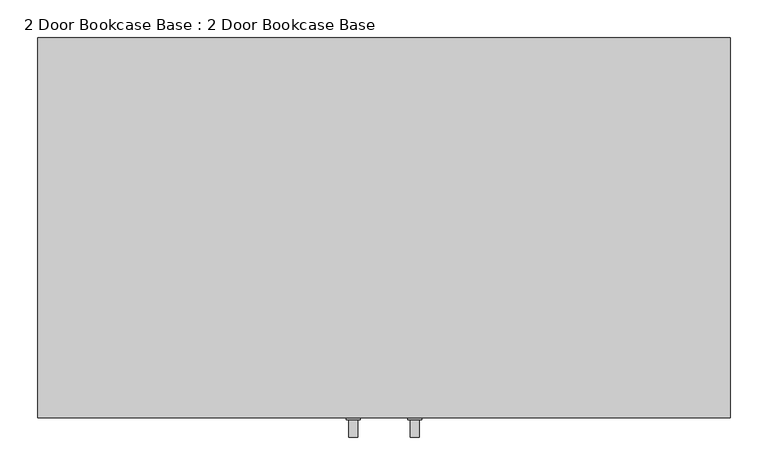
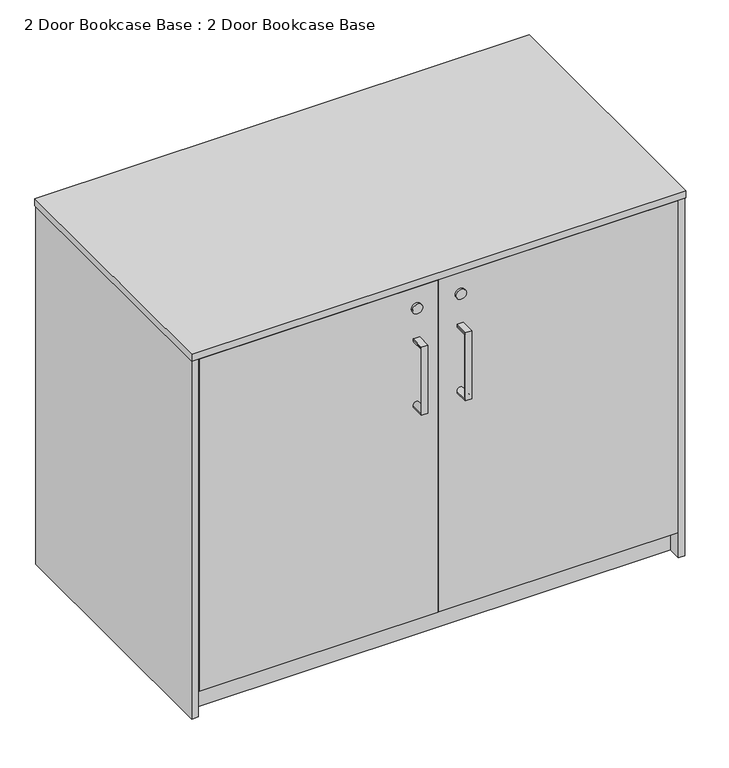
"""IFC4 building model written with IfcOpenShell, lengths in millimetres: furniture geometry, 2 Door Bookcase Base : 2 Door Bookcase Base."""

from ifc_helpers import new_model, si_unit, point, frame, frame_2d, origin, place, context, project, spatial, polyline, circle_curve, ellipse_curve, trimmed, segment, composite_curve, outline, extrude, source, transform, mapped, element, save
from ifc_brep_helpers import plane_surface, cylinder_surface, revolved_surface, advanced_brep


def furniture_2_door_bookcase_base_2_door_bookcase_base_32b6f320(model_context):
    return source(origin(), model_context, "Body", "SolidModel", [
        advanced_brep(
        [(431.0000121, -195.000005, 35.9938187), (428.1418006, -195.000005, 35.9938187), (433.8582236, -195.000005, 35.9938187), (441.0434443, -195.000005, 0.0), (420.9565799, -195.000005, 0.0), (431.0000121, -195.000005, 0.0), (440.2434443, -195.000005, 11.0000002), (421.7565799, -195.000005, 11.0000002), (421.7565799, -195.000005, 5.9919081), (440.2434443, -195.000005, 5.9919081), (434.8617061, -195.000005, 11.0000002), (427.1383182, -195.000005, 11.0000002), (434.8617061, -195.000005, 34.9903362), (427.1383182, -195.000005, 34.9903362), (441.0434443, -195.000005, 5.9919081), (420.9565799, -195.000005, 5.9919081)],
        [
            (0, 1),
            (1, 2, circle_curve(frame((431.0000121, -195.000005, 35.9938187), z_axis=(0.0, 0.0, 1.0), x_axis=(-1.0, 0.0, 0.0)), 2.8582115)),
            (2, 0),
            (2, 1, circle_curve(frame((431.0000121, -195.000005, 35.9938187), z_axis=(0.0, 0.0, 1.0), x_axis=(-1.0, 0.0, 0.0)), 2.8582115)),
            (3, 4, circle_curve(frame((431.0000121, -195.000005, 0.0), z_axis=(0.0, 0.0, -1.0), x_axis=(-1.0, 0.0, 0.0)), 10.0434322)),
            (4, 5),
            (5, 3),
            (4, 3, circle_curve(frame((431.0000121, -195.000005, 0.0), z_axis=(0.0, 0.0, -1.0), x_axis=(-1.0, 0.0, 0.0)), 10.0434322)),
            (6, 7, circle_curve(frame((431.0000121, -195.000005, 11.0000002), z_axis=(0.0, 0.0, -1.0), x_axis=(-1.0, 0.0, 0.0)), 9.2434322)),
            (7, 8),
            (8, 9, circle_curve(frame((431.0000121, -195.000005, 5.9919081), z_axis=(0.0, 0.0, 1.0), x_axis=(-1.0, 0.0, 0.0)), 9.2434322)),
            (9, 6),
            (7, 6, circle_curve(frame((431.0000121, -195.000005, 11.0000002), z_axis=(0.0, 0.0, -1.0), x_axis=(-1.0, 0.0, 0.0)), 9.2434322)),
            (9, 8, circle_curve(frame((431.0000121, -195.000005, 5.9919081), z_axis=(0.0, 0.0, 1.0), x_axis=(-1.0, 0.0, 0.0)), 9.2434322)),
            (10, 11, circle_curve(frame((431.0000121, -195.000005, 11.0000002), z_axis=(0.0, 0.0, -1.0), x_axis=(-1.0, 0.0, 0.0)), 3.8616939)),
            (11, 7),
            (6, 10),
            (11, 10, circle_curve(frame((431.0000121, -195.000005, 11.0000002), z_axis=(0.0, 0.0, -1.0), x_axis=(-1.0, 0.0, 0.0)), 3.8616939)),
            (12, 13, circle_curve(frame((431.0000121, -195.000005, 34.9903362), z_axis=(0.0, 0.0, -1.0), x_axis=(-1.0, 0.0, 0.0)), 3.8616939)),
            (13, 11),
            (10, 12),
            (13, 12, circle_curve(frame((431.0000121, -195.000005, 34.9903362), z_axis=(0.0, 0.0, -1.0), x_axis=(-1.0, 0.0, 0.0)), 3.8616939)),
            (1, 13),
            (12, 2),
            (14, 15, circle_curve(frame((431.0000121, -195.000005, 5.9919081), z_axis=(0.0, 0.0, -1.0), x_axis=(-1.0, 0.0, 0.0)), 10.0434322)),
            (15, 4, circle_curve(frame((420.9565799, -195.000005, 2.995954), z_axis=(0.0, -1.0, 0.0), x_axis=(-1.0, 0.0, 0.0)), 2.995954)),
            (3, 14, circle_curve(frame((441.0434443, -195.000005, 2.995954), z_axis=(0.0, -1.0, 0.0), x_axis=(1.0, 0.0, 0.0)), 2.995954)),
            (15, 14, circle_curve(frame((431.0000121, -195.000005, 5.9919081), z_axis=(0.0, 0.0, -1.0), x_axis=(-1.0, 0.0, 0.0)), 10.0434322)),
            (8, 15),
            (14, 9),
        ],
        [
            plane_surface(frame((431.0000121, -195.000005, 35.9938187), z_axis=(0.0, 0.0, 1.0), x_axis=(-1.0, 0.0, 0.0))),
            plane_surface(frame((431.0000121, -195.000005, 0.0), z_axis=(0.0, 0.0, -1.0), x_axis=(-1.0, 0.0, 0.0))),
            cylinder_surface(frame((431.0000121, -195.000005, -7.4934292), z_axis=(0.0, 0.0, 1.0), x_axis=(-1.0, 0.0, 0.0)), 9.2434322),
            plane_surface(frame((431.0000121, -195.000005, 11.0000002), z_axis=(0.0, 0.0, 1.0), x_axis=(-1.0, 0.0, 0.0))),
            cylinder_surface(frame((431.0000121, -195.000005, -7.4934292), z_axis=(0.0, 0.0, 1.0), x_axis=(-1.0, 0.0, 0.0)), 3.8616939),
            revolved_surface(polyline([(427.1383182, -195.000005, 34.9903362), (428.1418006, -195.000005, 35.9938187)]), (431.0000121, -195.000005, -7.4934292), (0.0, 0.0, 1.0)),
            revolved_surface(trimmed(ellipse_curve(frame((420.9565799, -195.000005, 2.995954), z_axis=(0.0, 1.0, 0.0), x_axis=(-1.0, 0.0, 0.0)), 2.995954, 2.995954), [point((420.9565799, -195.000005, 0.0))], [point((420.9565799, -195.000005, 5.9919081))], True, "CARTESIAN"), (431.0000121, -195.000005, -7.4934292), (0.0, 0.0, 1.0)),
            plane_surface(frame((431.0000121, -195.000005, 5.9919081), z_axis=(0.0, 0.0, 1.0), x_axis=(-1.0, 0.0, 0.0))),
        ],
        [
            (0, [[1, 2, 3]]),
            (0, [[-3, 4, -1]]),
            (1, [[5, 6, 7]]),
            (1, [[8, -7, -6]]),
            (2, [[9, 10, 11, 12]]),
            (2, [[13, -12, 14, -10]]),
            (3, [[15, 16, -9, 17]]),
            (3, [[18, -17, -13, -16]]),
            (4, [[19, 20, -15, 21]]),
            (4, [[22, -21, -18, -20]]),
            (5, [[-2, 23, -19, 24]]),
            (5, [[-4, -24, -22, -23]]),
            (6, [[25, 26, -5, 27]]),
            (6, [[28, -27, -8, -26]]),
            (7, [[-11, 29, -25, 30]]),
            (7, [[-14, -30, -28, -29]]),
        ],
    ),
        advanced_brep(
        [(-431.0000199, -195.000005, 35.9938187), (-433.8582314, -195.000005, 35.9938187), (-428.1418084, -195.000005, 35.9938187), (-441.0434521, -195.000005, 0.0), (-431.0000199, -195.000005, 0.0), (-420.9565877, -195.000005, 0.0), (-440.2434521, -195.000005, 11.0000002), (-440.2434521, -195.000005, 5.9919081), (-421.7565877, -195.000005, 5.9919081), (-421.7565877, -195.000005, 11.0000002), (-434.8617139, -195.000005, 11.0000002), (-427.138326, -195.000005, 11.0000002), (-434.8617139, -195.000005, 34.9903362), (-427.138326, -195.000005, 34.9903362), (-441.0434521, -195.000005, 5.9919081), (-420.9565877, -195.000005, 5.9919081)],
        [
            (0, 1),
            (1, 2, circle_curve(frame((-431.0000199, -195.000005, 35.9938187), z_axis=(0.0, 0.0, 1.0), x_axis=(1.0, 0.0, 0.0)), 2.8582115)),
            (2, 0),
            (2, 1, circle_curve(frame((-431.0000199, -195.000005, 35.9938187), z_axis=(0.0, 0.0, 1.0), x_axis=(1.0, 0.0, 0.0)), 2.8582115)),
            (3, 4),
            (4, 5),
            (5, 3, circle_curve(frame((-431.0000199, -195.000005, 0.0), z_axis=(0.0, 0.0, -1.0), x_axis=(1.0, 0.0, 0.0)), 10.0434322)),
            (3, 5, circle_curve(frame((-431.0000199, -195.000005, 0.0), z_axis=(0.0, 0.0, -1.0), x_axis=(1.0, 0.0, 0.0)), 10.0434322)),
            (6, 7),
            (7, 8, circle_curve(frame((-431.0000199, -195.000005, 5.9919081), z_axis=(0.0, 0.0, 1.0), x_axis=(1.0, 0.0, 0.0)), 9.2434322)),
            (8, 9),
            (9, 6, circle_curve(frame((-431.0000199, -195.000005, 11.0000002), z_axis=(0.0, 0.0, -1.0), x_axis=(1.0, 0.0, 0.0)), 9.2434322)),
            (8, 7, circle_curve(frame((-431.0000199, -195.000005, 5.9919081), z_axis=(0.0, 0.0, 1.0), x_axis=(1.0, 0.0, 0.0)), 9.2434322)),
            (6, 9, circle_curve(frame((-431.0000199, -195.000005, 11.0000002), z_axis=(0.0, 0.0, -1.0), x_axis=(1.0, 0.0, 0.0)), 9.2434322)),
            (10, 6),
            (9, 11),
            (11, 10, circle_curve(frame((-431.0000199, -195.000005, 11.0000002), z_axis=(0.0, 0.0, -1.0), x_axis=(1.0, 0.0, 0.0)), 3.8616939)),
            (10, 11, circle_curve(frame((-431.0000199, -195.000005, 11.0000002), z_axis=(0.0, 0.0, -1.0), x_axis=(1.0, 0.0, 0.0)), 3.8616939)),
            (12, 10),
            (11, 13),
            (13, 12, circle_curve(frame((-431.0000199, -195.000005, 34.9903362), z_axis=(0.0, 0.0, -1.0), x_axis=(1.0, 0.0, 0.0)), 3.8616939)),
            (12, 13, circle_curve(frame((-431.0000199, -195.000005, 34.9903362), z_axis=(0.0, 0.0, -1.0), x_axis=(1.0, 0.0, 0.0)), 3.8616939)),
            (1, 12),
            (13, 2),
            (14, 3, circle_curve(frame((-441.0434521, -195.000005, 2.995954), z_axis=(0.0, -1.0, 0.0), x_axis=(-1.0, 0.0, 0.0)), 2.995954)),
            (5, 15, circle_curve(frame((-420.9565877, -195.000005, 2.995954), z_axis=(0.0, -1.0, 0.0), x_axis=(1.0, 0.0, 0.0)), 2.995954)),
            (15, 14, circle_curve(frame((-431.0000199, -195.000005, 5.9919081), z_axis=(0.0, 0.0, -1.0), x_axis=(1.0, 0.0, 0.0)), 10.0434322)),
            (14, 15, circle_curve(frame((-431.0000199, -195.000005, 5.9919081), z_axis=(0.0, 0.0, -1.0), x_axis=(1.0, 0.0, 0.0)), 10.0434322)),
            (7, 14),
            (15, 8),
        ],
        [
            plane_surface(frame((-431.0000199, -195.000005, 35.9938187), z_axis=(0.0, 0.0, 1.0), x_axis=(1.0, 0.0, 0.0))),
            plane_surface(frame((-431.0000199, -195.000005, 0.0), z_axis=(0.0, 0.0, -1.0), x_axis=(1.0, 0.0, 0.0))),
            cylinder_surface(frame((-431.0000199, -195.000005, -7.4934292), z_axis=(0.0, 0.0, 1.0), x_axis=(1.0, 0.0, 0.0)), 9.2434322),
            plane_surface(frame((-431.0000199, -195.000005, 11.0000002), z_axis=(0.0, 0.0, 1.0), x_axis=(1.0, 0.0, 0.0))),
            cylinder_surface(frame((-431.0000199, -195.000005, -7.4934292), z_axis=(0.0, 0.0, 1.0), x_axis=(1.0, 0.0, 0.0)), 3.8616939),
            revolved_surface(polyline([(-427.138326, -195.000005, 34.9903362), (-428.1418084, -195.000005, 35.9938187)]), (-431.0000199, -195.000005, -7.4934292), (0.0, 0.0, 1.0)),
            revolved_surface(trimmed(ellipse_curve(frame((-420.9565877, -195.000005, 2.995954), z_axis=(0.0, -1.0, 0.0), x_axis=(1.0, 0.0, 0.0)), 2.995954, 2.995954), [point((-420.9565877, -195.000005, 0.0))], [point((-420.9565877, -195.000005, 5.9919081))], True, "CARTESIAN"), (-431.0000199, -195.000005, -7.4934292), (0.0, 0.0, 1.0)),
            plane_surface(frame((-431.0000199, -195.000005, 5.9919081), z_axis=(0.0, 0.0, 1.0), x_axis=(1.0, 0.0, 0.0))),
        ],
        [
            (0, [[1, 2, 3]]),
            (0, [[-3, 4, -1]]),
            (1, [[5, 6, 7]]),
            (1, [[-6, -5, 8]]),
            (2, [[9, 10, 11, 12]]),
            (2, [[-11, 13, -9, 14]]),
            (3, [[15, -12, 16, 17]]),
            (3, [[-16, -14, -15, 18]]),
            (4, [[19, -17, 20, 21]]),
            (4, [[-20, -18, -19, 22]]),
            (5, [[23, -21, 24, -2]]),
            (5, [[-24, -22, -23, -4]]),
            (6, [[25, -7, 26, 27]]),
            (6, [[-26, -8, -25, 28]]),
            (7, [[29, -27, 30, -10]]),
            (7, [[-30, -28, -29, -13]]),
        ],
    ),
        advanced_brep(
        [(419.0000176, 216.000025, 35.9938187), (421.858229, 216.000025, 35.9938187), (416.1418061, 216.000025, 35.9938187), (429.0434498, 216.000025, 0.0), (419.0000176, 216.000025, 0.0), (408.9565854, 216.000025, 0.0), (428.2434498, 216.000025, 11.0000002), (428.2434498, 216.000025, 5.9919081), (409.7565854, 216.000025, 5.9919081), (409.7565854, 216.000025, 11.0000002), (422.8617115, 216.000025, 11.0000002), (415.1383236, 216.000025, 11.0000002), (422.8617115, 216.000025, 34.9903362), (415.1383236, 216.000025, 34.9903362), (429.0434498, 216.000025, 5.9919081), (408.9565854, 216.000025, 5.9919081)],
        [
            (0, 1),
            (1, 2, circle_curve(frame((419.0000176, 216.000025, 35.9938187), z_axis=(0.0, 0.0, 1.0), x_axis=(-1.0, 0.0, 0.0)), 2.8582115)),
            (2, 0),
            (2, 1, circle_curve(frame((419.0000176, 216.000025, 35.9938187), z_axis=(0.0, 0.0, 1.0), x_axis=(-1.0, 0.0, 0.0)), 2.8582115)),
            (3, 4),
            (4, 5),
            (5, 3, circle_curve(frame((419.0000176, 216.000025, 0.0), z_axis=(0.0, 0.0, -1.0), x_axis=(-1.0, 0.0, 0.0)), 10.0434322)),
            (3, 5, circle_curve(frame((419.0000176, 216.000025, 0.0), z_axis=(0.0, 0.0, -1.0), x_axis=(-1.0, 0.0, 0.0)), 10.0434322)),
            (6, 7),
            (7, 8, circle_curve(frame((419.0000176, 216.000025, 5.9919081), z_axis=(0.0, 0.0, 1.0), x_axis=(-1.0, 0.0, 0.0)), 9.2434322)),
            (8, 9),
            (9, 6, circle_curve(frame((419.0000176, 216.000025, 11.0000002), z_axis=(0.0, 0.0, -1.0), x_axis=(-1.0, 0.0, 0.0)), 9.2434322)),
            (8, 7, circle_curve(frame((419.0000176, 216.000025, 5.9919081), z_axis=(0.0, 0.0, 1.0), x_axis=(-1.0, 0.0, 0.0)), 9.2434322)),
            (6, 9, circle_curve(frame((419.0000176, 216.000025, 11.0000002), z_axis=(0.0, 0.0, -1.0), x_axis=(-1.0, 0.0, 0.0)), 9.2434322)),
            (10, 6),
            (9, 11),
            (11, 10, circle_curve(frame((419.0000176, 216.000025, 11.0000002), z_axis=(0.0, 0.0, -1.0), x_axis=(-1.0, 0.0, 0.0)), 3.8616939)),
            (10, 11, circle_curve(frame((419.0000176, 216.000025, 11.0000002), z_axis=(0.0, 0.0, -1.0), x_axis=(-1.0, 0.0, 0.0)), 3.8616939)),
            (12, 10),
            (11, 13),
            (13, 12, circle_curve(frame((419.0000176, 216.000025, 34.9903362), z_axis=(0.0, 0.0, -1.0), x_axis=(-1.0, 0.0, 0.0)), 3.8616939)),
            (12, 13, circle_curve(frame((419.0000176, 216.000025, 34.9903362), z_axis=(0.0, 0.0, -1.0), x_axis=(-1.0, 0.0, 0.0)), 3.8616939)),
            (1, 12),
            (13, 2),
            (14, 3, circle_curve(frame((429.0434498, 216.000025, 2.995954), z_axis=(0.0, 1.0, 0.0), x_axis=(1.0, 0.0, 0.0)), 2.995954)),
            (5, 15, circle_curve(frame((408.9565854, 216.000025, 2.995954), z_axis=(0.0, 1.0, 0.0), x_axis=(-1.0, 0.0, 0.0)), 2.995954)),
            (15, 14, circle_curve(frame((419.0000176, 216.000025, 5.9919081), z_axis=(0.0, 0.0, -1.0), x_axis=(-1.0, 0.0, 0.0)), 10.0434322)),
            (14, 15, circle_curve(frame((419.0000176, 216.000025, 5.9919081), z_axis=(0.0, 0.0, -1.0), x_axis=(-1.0, 0.0, 0.0)), 10.0434322)),
            (7, 14),
            (15, 8),
        ],
        [
            plane_surface(frame((419.0000176, 216.000025, 35.9938187), z_axis=(0.0, 0.0, 1.0), x_axis=(-1.0, 0.0, 0.0))),
            plane_surface(frame((419.0000176, 216.000025, 0.0), z_axis=(0.0, 0.0, -1.0), x_axis=(-1.0, 0.0, 0.0))),
            cylinder_surface(frame((419.0000176, 216.000025, -7.4934292), z_axis=(0.0, 0.0, 1.0), x_axis=(-1.0, 0.0, 0.0)), 9.2434322),
            plane_surface(frame((419.0000176, 216.000025, 11.0000002), z_axis=(0.0, 0.0, 1.0), x_axis=(-1.0, 0.0, 0.0))),
            cylinder_surface(frame((419.0000176, 216.000025, -7.4934292), z_axis=(0.0, 0.0, 1.0), x_axis=(-1.0, 0.0, 0.0)), 3.8616939),
            revolved_surface(polyline([(415.1383236, 216.000025, 34.9903362), (416.1418061, 216.000025, 35.9938187)]), (419.0000176, 216.000025, -7.4934292), (0.0, 0.0, 1.0)),
            revolved_surface(trimmed(ellipse_curve(frame((408.9565854, 216.000025, 2.995954), z_axis=(0.0, 1.0, 0.0), x_axis=(-1.0, 0.0, 0.0)), 2.995954, 2.995954), [point((408.9565854, 216.000025, 0.0))], [point((408.9565854, 216.000025, 5.9919081))], True, "CARTESIAN"), (419.0000176, 216.000025, -7.4934292), (0.0, 0.0, 1.0)),
            plane_surface(frame((419.0000176, 216.000025, 5.9919081), z_axis=(0.0, 0.0, 1.0), x_axis=(-1.0, 0.0, 0.0))),
        ],
        [
            (0, [[1, 2, 3]]),
            (0, [[-3, 4, -1]]),
            (1, [[5, 6, 7]]),
            (1, [[-6, -5, 8]]),
            (2, [[9, 10, 11, 12]]),
            (2, [[-11, 13, -9, 14]]),
            (3, [[15, -12, 16, 17]]),
            (3, [[-16, -14, -15, 18]]),
            (4, [[19, -17, 20, 21]]),
            (4, [[-20, -18, -19, 22]]),
            (5, [[23, -21, 24, -2]]),
            (5, [[-24, -22, -23, -4]]),
            (6, [[25, -7, 26, 27]]),
            (6, [[-26, -8, -25, 28]]),
            (7, [[29, -27, 30, -10]]),
            (7, [[-30, -28, -29, -13]]),
        ],
    ),
        advanced_brep(
        [(-419.0000178, 216.000025, 35.9938187), (-416.1418063, 216.000025, 35.9938187), (-421.8582293, 216.000025, 35.9938187), (-429.04345, 216.000025, 0.0), (-408.9565856, 216.000025, 0.0), (-419.0000178, 216.000025, 0.0), (-428.24345, 216.000025, 11.0000002), (-409.7565856, 216.000025, 11.0000002), (-409.7565856, 216.000025, 5.9919081), (-428.24345, 216.000025, 5.9919081), (-422.8617117, 216.000025, 11.0000002), (-415.1383238, 216.000025, 11.0000002), (-422.8617117, 216.000025, 34.9903362), (-415.1383238, 216.000025, 34.9903362), (-429.04345, 216.000025, 5.9919081), (-408.9565856, 216.000025, 5.9919081)],
        [
            (0, 1),
            (1, 2, circle_curve(frame((-419.0000178, 216.000025, 35.9938187), z_axis=(0.0, 0.0, 1.0), x_axis=(1.0, 0.0, 0.0)), 2.8582115)),
            (2, 0),
            (2, 1, circle_curve(frame((-419.0000178, 216.000025, 35.9938187), z_axis=(0.0, 0.0, 1.0), x_axis=(1.0, 0.0, 0.0)), 2.8582115)),
            (3, 4, circle_curve(frame((-419.0000178, 216.000025, 0.0), z_axis=(0.0, 0.0, -1.0), x_axis=(1.0, 0.0, 0.0)), 10.0434322)),
            (4, 5),
            (5, 3),
            (4, 3, circle_curve(frame((-419.0000178, 216.000025, 0.0), z_axis=(0.0, 0.0, -1.0), x_axis=(1.0, 0.0, 0.0)), 10.0434322)),
            (6, 7, circle_curve(frame((-419.0000178, 216.000025, 11.0000002), z_axis=(0.0, 0.0, -1.0), x_axis=(1.0, 0.0, 0.0)), 9.2434322)),
            (7, 8),
            (8, 9, circle_curve(frame((-419.0000178, 216.000025, 5.9919081), z_axis=(0.0, 0.0, 1.0), x_axis=(1.0, 0.0, 0.0)), 9.2434322)),
            (9, 6),
            (7, 6, circle_curve(frame((-419.0000178, 216.000025, 11.0000002), z_axis=(0.0, 0.0, -1.0), x_axis=(1.0, 0.0, 0.0)), 9.2434322)),
            (9, 8, circle_curve(frame((-419.0000178, 216.000025, 5.9919081), z_axis=(0.0, 0.0, 1.0), x_axis=(1.0, 0.0, 0.0)), 9.2434322)),
            (10, 11, circle_curve(frame((-419.0000178, 216.000025, 11.0000002), z_axis=(0.0, 0.0, -1.0), x_axis=(1.0, 0.0, 0.0)), 3.8616939)),
            (11, 7),
            (6, 10),
            (11, 10, circle_curve(frame((-419.0000178, 216.000025, 11.0000002), z_axis=(0.0, 0.0, -1.0), x_axis=(1.0, 0.0, 0.0)), 3.8616939)),
            (12, 13, circle_curve(frame((-419.0000178, 216.000025, 34.9903362), z_axis=(0.0, 0.0, -1.0), x_axis=(1.0, 0.0, 0.0)), 3.8616939)),
            (13, 11),
            (10, 12),
            (13, 12, circle_curve(frame((-419.0000178, 216.000025, 34.9903362), z_axis=(0.0, 0.0, -1.0), x_axis=(1.0, 0.0, 0.0)), 3.8616939)),
            (1, 13),
            (12, 2),
            (14, 15, circle_curve(frame((-419.0000178, 216.000025, 5.9919081), z_axis=(0.0, 0.0, -1.0), x_axis=(1.0, 0.0, 0.0)), 10.0434322)),
            (15, 4, circle_curve(frame((-408.9565856, 216.000025, 2.995954), z_axis=(0.0, 1.0, 0.0), x_axis=(1.0, 0.0, 0.0)), 2.995954)),
            (3, 14, circle_curve(frame((-429.04345, 216.000025, 2.995954), z_axis=(0.0, 1.0, 0.0), x_axis=(-1.0, 0.0, 0.0)), 2.995954)),
            (15, 14, circle_curve(frame((-419.0000178, 216.000025, 5.9919081), z_axis=(0.0, 0.0, -1.0), x_axis=(1.0, 0.0, 0.0)), 10.0434322)),
            (8, 15),
            (14, 9),
        ],
        [
            plane_surface(frame((-419.0000178, 216.000025, 35.9938187), z_axis=(0.0, 0.0, 1.0), x_axis=(1.0, 0.0, 0.0))),
            plane_surface(frame((-419.0000178, 216.000025, 0.0), z_axis=(0.0, 0.0, -1.0), x_axis=(1.0, 0.0, 0.0))),
            cylinder_surface(frame((-419.0000178, 216.000025, -7.4934292), z_axis=(0.0, 0.0, 1.0), x_axis=(1.0, 0.0, 0.0)), 9.2434322),
            plane_surface(frame((-419.0000178, 216.000025, 11.0000002), z_axis=(0.0, 0.0, 1.0), x_axis=(1.0, 0.0, 0.0))),
            cylinder_surface(frame((-419.0000178, 216.000025, -7.4934292), z_axis=(0.0, 0.0, 1.0), x_axis=(1.0, 0.0, 0.0)), 3.8616939),
            revolved_surface(polyline([(-415.1383238, 216.000025, 34.9903362), (-416.1418063, 216.000025, 35.9938187)]), (-419.0000178, 216.000025, -7.4934292), (0.0, 0.0, 1.0)),
            revolved_surface(trimmed(ellipse_curve(frame((-408.9565856, 216.000025, 2.995954), z_axis=(0.0, -1.0, 0.0), x_axis=(1.0, 0.0, 0.0)), 2.995954, 2.995954), [point((-408.9565856, 216.000025, 0.0))], [point((-408.9565856, 216.000025, 5.9919081))], True, "CARTESIAN"), (-419.0000178, 216.000025, -7.4934292), (0.0, 0.0, 1.0)),
            plane_surface(frame((-419.0000178, 216.000025, 5.9919081), z_axis=(0.0, 0.0, 1.0), x_axis=(1.0, 0.0, 0.0))),
        ],
        [
            (0, [[1, 2, 3]]),
            (0, [[-3, 4, -1]]),
            (1, [[5, 6, 7]]),
            (1, [[8, -7, -6]]),
            (2, [[9, 10, 11, 12]]),
            (2, [[13, -12, 14, -10]]),
            (3, [[15, 16, -9, 17]]),
            (3, [[18, -17, -13, -16]]),
            (4, [[19, 20, -15, 21]]),
            (4, [[22, -21, -18, -20]]),
            (5, [[-2, 23, -19, 24]]),
            (5, [[-4, -24, -22, -23]]),
            (6, [[25, 26, -5, 27]]),
            (6, [[28, -27, -8, -26]]),
            (7, [[-11, 29, -25, 30]]),
            (7, [[-14, -30, -28, -29]]),
        ],
    ),
        advanced_brep(
        [(46.7499989, -251.0000046, 611.5799341), (34.7500046, -251.0000046, 611.5799341), (34.7500046, -251.0000046, 614.5000149), (46.7499989, -251.0000046, 614.5000149), (46.7499989, -251.0000046, 483.4200627), (46.7499989, -251.0000046, 480.4999819), (34.7500046, -251.0000046, 480.4999819), (34.7500046, -251.0000046, 483.4200627), (46.7499989, -277.8799245, 611.5799341), (34.7500046, -277.8799245, 611.5799341), (34.7500046, -277.8799245, 483.4200627), (46.7499989, -277.8799245, 483.4200627), (34.7500046, -277.8799245, 480.4999819), (46.7499989, -277.8799245, 480.4999819), (46.7499989, -277.8799245, 614.5000149), (34.7500046, -277.8799245, 614.5000149)],
        [
            (0, 1, circle_curve(frame((40.7500018, -251.0000046, 611.5799341), z_axis=(0.0, 1.0, 0.0), x_axis=(-1.0, 0.0, 0.0)), 5.9999971)),
            (1, 2),
            (2, 3),
            (3, 0),
            (4, 5),
            (5, 6),
            (6, 7),
            (7, 4, circle_curve(frame((40.7500018, -251.0000046, 483.4200627), z_axis=(0.0, 1.0, 0.0), x_axis=(-1.0, 0.0, 0.0)), 5.9999971)),
            (0, 8),
            (8, 9, ellipse_curve(frame((40.7500018, -277.8799245, 611.5799341), z_axis=(0.0, 0.7071067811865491, 0.7071067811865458), x_axis=(0.0, 0.707106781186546, -0.7071067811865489)), 8.4852773, 5.9999971)),
            (9, 1),
            (7, 10),
            (10, 11, ellipse_curve(frame((40.7500018, -277.8799245, 483.4200627), z_axis=(0.0, 0.7071067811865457, -0.7071067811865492), x_axis=(0.0, -0.7071067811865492, -0.7071067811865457)), 8.4852773, 5.9999971)),
            (11, 4),
            (9, 10),
            (10, 12),
            (12, 13),
            (13, 11),
            (11, 8),
            (8, 14),
            (14, 15),
            (15, 9),
            (15, 2),
            (14, 3),
            (13, 5),
            (12, 6),
        ],
        [
            plane_surface(frame((0.0, -251.0000046, 614.5000149), z_axis=(0.0, 1.0, 0.0), x_axis=(1.0, 0.0, 0.0))),
            cylinder_surface(frame((40.7500018, -251.0000046, 611.5799341), z_axis=(0.0, 1.0, 0.0), x_axis=(-1.0, 0.0, 0.0)), 5.9999971),
            cylinder_surface(frame((40.7500018, -280.8000054, 483.4200627), z_axis=(0.0, -1.0, 0.0), x_axis=(-1.0, 0.0, 0.0)), 5.9999971),
            plane_surface(frame((34.7500046, -277.8799245, 611.5799341), z_axis=(0.0, -1.0, 0.0), x_axis=(0.0, 0.0, -1.0))),
            cylinder_surface(frame((40.7500018, -277.8799245, 614.5000149), z_axis=(0.0, 0.0, 1.0), x_axis=(-1.0, 0.0, 0.0)), 5.9999971),
            plane_surface(frame((34.7500046, -278.0000054, 614.5000149), z_axis=(-1.0, 0.0, 0.0), x_axis=(0.0, 1.0, 0.0))),
            plane_surface(frame((46.7499989, -278.0000054, 614.5000149), z_axis=(0.0, 0.0, 1.0), x_axis=(0.0, 1.0, 0.0))),
            plane_surface(frame((46.7499989, -278.0000054, 611.5799341), z_axis=(1.0, 0.0, 0.0), x_axis=(0.0, 1.0, 0.0))),
            plane_surface(frame((46.7499989, -278.0000054, 480.4999819), z_axis=(1.0, 0.0, 0.0), x_axis=(0.0, 1.0, 0.0))),
            plane_surface(frame((34.7500046, -278.0000054, 480.4999819), z_axis=(0.0, 0.0, -1.0), x_axis=(0.0, 1.0, 0.0))),
            plane_surface(frame((34.7500046, -278.0000054, 483.4200627), z_axis=(-1.0, 0.0, 0.0), x_axis=(0.0, 1.0, 0.0))),
        ],
        [
            (0, [[1, 2, 3, 4]]),
            (0, [[5, 6, 7, 8]]),
            (1, [[-1, 9, 10, 11]]),
            (2, [[-8, 12, 13, 14]]),
            (3, [[15, 16, 17, 18, 19, 20, 21, 22]]),
            (4, [[-10, -19, -13, -15]]),
            (5, [[-22, 23, -2, -11]]),
            (6, [[-21, 24, -3, -23]]),
            (7, [[-20, -9, -4, -24]]),
            (8, [[-18, 25, -5, -14]]),
            (9, [[-17, 26, -6, -25]]),
            (10, [[-16, -12, -7, -26]]),
        ],
    ),
        advanced_brep(
        [(-46.7499989, -251.0000046, 483.4200627), (-34.7500046, -251.0000046, 483.4200627), (-34.7500046, -251.0000046, 480.4999819), (-46.7499989, -251.0000046, 480.4999819), (-46.7499989, -251.0000046, 611.5799341), (-46.7499989, -251.0000046, 614.5000149), (-34.7500046, -251.0000046, 614.5000149), (-34.7500046, -251.0000046, 611.5799341), (-46.7499989, -277.8799245, 483.4200627), (-34.7500046, -277.8799245, 483.4200627), (-34.7500046, -277.8799245, 611.5799341), (-46.7499989, -277.8799245, 611.5799341), (-34.7500046, -277.8799245, 614.5000149), (-46.7499989, -277.8799245, 614.5000149), (-46.7499989, -277.8799245, 480.4999819), (-34.7500046, -277.8799245, 480.4999819)],
        [
            (0, 1, circle_curve(frame((-40.7500018, -251.0000046, 483.4200627), z_axis=(0.0, 1.0, 0.0), x_axis=(1.0, 0.0, 0.0)), 5.9999971)),
            (1, 2),
            (2, 3),
            (3, 0),
            (4, 5),
            (5, 6),
            (6, 7),
            (7, 4, circle_curve(frame((-40.7500018, -251.0000046, 611.5799341), z_axis=(0.0, 1.0, 0.0), x_axis=(1.0, 0.0, 0.0)), 5.9999971)),
            (0, 8),
            (8, 9, ellipse_curve(frame((-40.7500018, -277.8799245, 483.4200627), z_axis=(0.0, 0.7071067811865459, -0.7071067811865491), x_axis=(0.0, 0.707106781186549, 0.7071067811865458)), 8.4852773, 5.9999971)),
            (9, 1),
            (7, 10),
            (10, 11, ellipse_curve(frame((-40.7500018, -277.8799245, 611.5799341), z_axis=(0.0, 0.7071067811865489, 0.707106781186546), x_axis=(0.0, -0.7071067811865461, 0.7071067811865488)), 8.4852773, 5.9999971)),
            (11, 4),
            (9, 10),
            (10, 12),
            (12, 13),
            (13, 11),
            (11, 8),
            (8, 14),
            (14, 15),
            (15, 9),
            (6, 12),
            (5, 13),
            (3, 14),
            (2, 15),
        ],
        [
            plane_surface(frame((0.0, -251.0000046, 480.4999819), z_axis=(0.0, 1.0, 0.0), x_axis=(1.0, 0.0, 0.0))),
            cylinder_surface(frame((-40.7500018, -251.0000046, 483.4200627), z_axis=(0.0, 1.0, 0.0), x_axis=(1.0, 0.0, 0.0)), 5.9999971),
            cylinder_surface(frame((-40.7500018, -280.8000054, 611.5799341), z_axis=(0.0, -1.0, 0.0), x_axis=(1.0, 0.0, 0.0)), 5.9999971),
            plane_surface(frame((-34.7500046, -277.8799245, 483.4200627), z_axis=(0.0, -1.0, 0.0), x_axis=(0.0, 0.0, 1.0))),
            cylinder_surface(frame((-40.7500018, -277.8799245, 480.4999819), z_axis=(0.0, 0.0, -1.0), x_axis=(1.0, 0.0, 0.0)), 5.9999971),
            plane_surface(frame((-34.7500046, -278.0000054, 611.5799341), z_axis=(1.0, 0.0, 0.0), x_axis=(0.0, 1.0, 0.0))),
            plane_surface(frame((-34.7500046, -278.0000054, 614.5000149), z_axis=(0.0, 0.0, 1.0), x_axis=(0.0, 1.0, 0.0))),
            plane_surface(frame((-46.7499989, -278.0000054, 614.5000149), z_axis=(-1.0, 0.0, 0.0), x_axis=(0.0, 1.0, 0.0))),
            plane_surface(frame((-46.7499989, -278.0000054, 483.4200627), z_axis=(-1.0, 0.0, 0.0), x_axis=(0.0, 1.0, 0.0))),
            plane_surface(frame((-46.7499989, -278.0000054, 480.4999819), z_axis=(0.0, 0.0, -1.0), x_axis=(0.0, 1.0, 0.0))),
            plane_surface(frame((-34.7500046, -278.0000054, 480.4999819), z_axis=(1.0, 0.0, 0.0), x_axis=(0.0, 1.0, 0.0))),
        ],
        [
            (0, [[1, 2, 3, 4]]),
            (0, [[5, 6, 7, 8]]),
            (1, [[-1, 9, 10, 11]]),
            (2, [[-8, 12, 13, 14]]),
            (3, [[15, 16, 17, 18, 19, 20, 21, 22]]),
            (4, [[-10, -19, -13, -15]]),
            (5, [[-16, -12, -7, 23]]),
            (6, [[-17, -23, -6, 24]]),
            (7, [[-18, -24, -5, -14]]),
            (8, [[-20, -9, -4, 25]]),
            (9, [[-21, -25, -3, 26]]),
            (10, [[-22, -26, -2, -11]]),
        ],
    ),
        extrude(outline(composite_curve([segment(trimmed(circle_curve(frame_2d((674.0333746, -40.742523)), 9.5), [point((674.0333746, -50.242523))], [point((674.0333746, -31.242523))], False, "CARTESIAN"), True, "CONTINUOUS"), segment(trimmed(circle_curve(frame_2d((674.0333746, -40.742523)), 9.5), [point((674.0333746, -31.242523))], [point((674.0333746, -50.242523))], False, "CARTESIAN"), True, "CONTINUOUS")], self_intersect=False)), frame((0.0, -255.0000046, 0.0), z_axis=(0.0, 1.0, 0.0), x_axis=(0.0, 0.0, 1.0)), (0.0, 0.0, 1.0), 22.0000005),
        extrude(outline(composite_curve([segment(trimmed(circle_curve(frame_2d((674.0333746, 40.742523)), 9.5), [point((674.0333746, 31.242523))], [point((674.0333746, 50.242523))], False, "CARTESIAN"), True, "CONTINUOUS"), segment(trimmed(circle_curve(frame_2d((674.0333746, 40.742523)), 9.5), [point((674.0333746, 50.242523))], [point((674.0333746, 31.242523))], False, "CARTESIAN"), True, "CONTINUOUS")], self_intersect=False)), frame((0.0, -255.0000046, 0.0), z_axis=(0.0, 1.0, 0.0), x_axis=(0.0, 0.0, 1.0)), (0.0, 0.0, 1.0), 22.0000005),
        extrude(outline(composite_curve([segment(polyline([(684.5256867, -54.1182992), (663.5410625, -54.1182992)]), True, "CONTINUOUS"), segment(trimmed(circle_curve(frame_2d((674.0333746, -40.742523)), 17.0), [point((663.5410625, -54.1182992))], [point((665.9999964, -25.7603725))], False, "CARTESIAN"), True, "CONTINUOUS"), segment(polyline([(665.9999964, -25.7603725), (665.9999964, -14.1183061), (681.9999645, -14.1183061), (681.9999645, -25.724752)]), True, "CONTINUOUS"), segment(trimmed(circle_curve(frame_2d((674.0333746, -40.742523)), 17.0), [point((681.9999645, -25.724752))], [point((684.5256867, -54.1182992))], False, "CARTESIAN"), True, "CONTINUOUS")], self_intersect=False), holes=[composite_curve([segment(trimmed(circle_curve(frame_2d((674.0333746, -40.742523)), 9.5), [point((674.0333746, -50.242523))], [point((674.0333746, -31.242523))], True, "CARTESIAN"), True, "CONTINUOUS"), segment(trimmed(circle_curve(frame_2d((674.0333746, -40.742523)), 9.5), [point((674.0333746, -31.242523))], [point((674.0333746, -50.242523))], True, "CARTESIAN"), True, "CONTINUOUS")], self_intersect=False), composite_curve([segment(trimmed(circle_curve(frame_2d((687.7652396, -40.7715059)), 1.6583233), [point((687.7652396, -42.4298291))], [point((687.7652396, -39.1131826))], True, "CARTESIAN"), True, "CONTINUOUS"), segment(trimmed(circle_curve(frame_2d((687.7652396, -40.7715059)), 1.6583233), [point((687.7652396, -39.1131826))], [point((687.7652396, -42.4298291))], True, "CARTESIAN"), True, "CONTINUOUS")], self_intersect=False), composite_curve([segment(trimmed(circle_curve(frame_2d((660.3015097, -40.7715059)), 1.6583233), [point((660.3015097, -42.4298291))], [point((660.3015097, -39.1131826))], True, "CARTESIAN"), True, "CONTINUOUS"), segment(trimmed(circle_curve(frame_2d((660.3015097, -40.7715059)), 1.6583233), [point((660.3015097, -39.1131826))], [point((660.3015097, -42.4298291))], True, "CARTESIAN"), True, "CONTINUOUS")], self_intersect=False)]), frame((0.0, -233.0000041, 0.0), z_axis=(0.0, 1.0, 0.0), x_axis=(0.0, 0.0, 1.0)), (0.0, 0.0, 1.0), 4.9999991),
        extrude(outline(composite_curve([segment(trimmed(circle_curve(frame_2d((674.0333746, 40.742523)), 17.0), [point((684.5256867, 54.1182992))], [point((681.9999645, 25.724752))], False, "CARTESIAN"), True, "CONTINUOUS"), segment(polyline([(681.9999645, 25.724752), (681.9999645, 14.1183061), (665.9999964, 14.1183061), (665.9999964, 25.7603725)]), True, "CONTINUOUS"), segment(trimmed(circle_curve(frame_2d((674.0333746, 40.742523)), 17.0), [point((665.9999964, 25.7603725))], [point((663.5410625, 54.1182992))], False, "CARTESIAN"), True, "CONTINUOUS"), segment(polyline([(663.5410625, 54.1182992), (684.5256867, 54.1182992)]), True, "CONTINUOUS")], self_intersect=False), holes=[composite_curve([segment(trimmed(circle_curve(frame_2d((674.0333746, 40.742523)), 9.5), [point((674.0333746, 50.242523))], [point((674.0333746, 31.242523))], True, "CARTESIAN"), True, "CONTINUOUS"), segment(trimmed(circle_curve(frame_2d((674.0333746, 40.742523)), 9.5), [point((674.0333746, 31.242523))], [point((674.0333746, 50.242523))], True, "CARTESIAN"), True, "CONTINUOUS")], self_intersect=False), composite_curve([segment(trimmed(circle_curve(frame_2d((687.7652396, 40.7715059)), 1.6583233), [point((687.7652396, 42.4298291))], [point((687.7652396, 39.1131826))], True, "CARTESIAN"), True, "CONTINUOUS"), segment(trimmed(circle_curve(frame_2d((687.7652396, 40.7715059)), 1.6583233), [point((687.7652396, 39.1131826))], [point((687.7652396, 42.4298291))], True, "CARTESIAN"), True, "CONTINUOUS")], self_intersect=False), composite_curve([segment(trimmed(circle_curve(frame_2d((660.3015097, 40.7715059)), 1.6583233), [point((660.3015097, 42.4298291))], [point((660.3015097, 39.1131826))], True, "CARTESIAN"), True, "CONTINUOUS"), segment(trimmed(circle_curve(frame_2d((660.3015097, 40.7715059)), 1.6583233), [point((660.3015097, 39.1131826))], [point((660.3015097, 42.4298291))], True, "CARTESIAN"), True, "CONTINUOUS")], self_intersect=False)]), frame((0.0, -233.0000041, 0.0), z_axis=(0.0, 1.0, 0.0), x_axis=(0.0, 0.0, 1.0)), (0.0, 0.0, 1.0), 4.9999991),
        extrude(outline(polyline([(-435.0000166, 231.5000055), (-403.000019, 231.5000055), (-403.000019, 200.0000387), (-435.0000166, 200.0000387), (-435.0000166, 231.5000055)])), frame((0.0, 0.0, 11.0000002), z_axis=(0.0, 0.0, 1.0), x_axis=(1.0, 0.0, 0.0)), (0.0, 0.0, 1.0), 50.0000015),
        extrude(outline(polyline([(403.0000185, 231.5000055), (435.0000166, 231.5000055), (435.0000166, 200.0000387), (403.0000185, 200.0000387), (403.0000185, 231.5000055)])), frame((0.0, 0.0, 11.0000002), z_axis=(0.0, 0.0, 1.0), x_axis=(1.0, 0.0, 0.0)), (0.0, 0.0, 1.0), 50.0000015),
        extrude(outline(polyline([(447.0000166, -179.000005), (447.0000166, -211.0000049), (415.0000076, -211.0000049), (415.0000076, -179.000005), (447.0000166, -179.000005)])), frame((0.0, 0.0, 11.0000002), z_axis=(0.0, 0.0, 1.0), x_axis=(1.0, 0.0, 0.0)), (0.0, 0.0, 1.0), 50.0000015),
        extrude(outline(polyline([(-447.0000166, -179.000005), (-415.0000232, -179.000005), (-415.0000232, -211.0000049), (-447.0000166, -211.0000049), (-447.0000166, -179.000005)])), frame((0.0, 0.0, 11.0000002), z_axis=(0.0, 0.0, 1.0), x_axis=(1.0, 0.0, 0.0)), (0.0, 0.0, 1.0), 50.0000015),
        extrude(outline(polyline([(-435.0000166, 231.5000055), (-9.0, 231.5000055), (-9.0, -225.5000049), (-435.0000166, -225.5000049), (-435.0000166, 231.5000055)])), frame((0.0, 0.0, 391.4999989), z_axis=(0.0, 0.0, 1.0), x_axis=(1.0, 0.0, 0.0)), (0.0, 0.0, 1.0), 12.0),
        extrude(outline(polyline([(435.0000166, 232.0000113), (435.0000166, -225.5000049), (9.0, -225.5000049), (9.0, 232.0000113), (435.0000166, 232.0000113)])), frame((0.0, 0.0, 391.4999989), z_axis=(0.0, 0.0, 1.0), x_axis=(1.0, 0.0, 0.0)), (0.0, 0.0, 1.0), 12.0),
        extrude(outline(polyline([(-0.7500211, -251.0000041), (-445.2500221, -251.0000041), (-445.2500221, -233.0000041), (-0.7500211, -233.0000041), (-0.7500211, -251.0000041)])), frame((0.0, 0.0, 61.0000018), z_axis=(0.0, 0.0, 1.0), x_axis=(1.0, 0.0, 0.0)), (0.0, 0.0, 1.0), 652.9999982),
        extrude(outline(polyline([(445.2500221, -251.0000041), (0.7500211, -251.0000041), (0.7500211, -233.0000041), (445.2500221, -233.0000041), (445.2500221, -251.0000041)])), frame((0.0, 0.0, 61.0000018), z_axis=(0.0, 0.0, 1.0), x_axis=(1.0, 0.0, 0.0)), (0.0, 0.0, 1.0), 652.9999982),
        extrude(outline(polyline([(9.0, 232.0000113), (9.0, -230.000005), (-9.0, -230.000005), (-9.0, 232.0000113), (9.0, 232.0000113)])), frame((0.0, 0.0, 78.9999977), z_axis=(0.0, 0.0, 1.0), x_axis=(1.0, 0.0, 0.0)), (0.0, 0.0, 1.0), 637.0000023),
        extrude(outline(polyline([(61.0000018, -445.2500221), (61.0000018, 445.2500221), (716.0, 445.2500221), (716.0, 435.0000166), (78.9999977, 435.0000166), (78.9999977, -435.0000166), (716.0, -435.0000166), (716.0, -445.2500221), (61.0000018, -445.2500221)])), frame((0.0, -229.0000048, 0.0), z_axis=(0.0, 1.0, 0.0), x_axis=(0.0, 0.0, 1.0)), (0.0, 0.0, 1.0), 461.0000161),
        extrude(outline(polyline([(447.0000166, -211.0000049), (447.0000166, -225.5000049), (-447.0000166, -225.5000049), (-447.0000166, -211.0000049), (447.0000166, -211.0000049)])), frame((0.0, 0.0, 11.0000002), z_axis=(0.0, 0.0, 1.0), x_axis=(1.0, 0.0, 0.0)), (0.0, 0.0, 1.0), 50.0000015),
        extrude(outline(polyline([(-447.0000166, 250.9999866), (-447.0000166, -251.0000041), (-459.0000166, -251.0000041), (-459.0000166, 250.9999866), (-447.0000166, 250.9999866)])), frame((0.0, 0.0, 11.0000002), z_axis=(0.0, 0.0, 1.0), x_axis=(1.0, 0.0, 0.0)), (0.0, 0.0, 1.0), 704.9999998),
        extrude(outline(polyline([(459.0000166, 250.9999866), (459.0000166, -251.0000041), (447.0000166, -251.0000041), (447.0000166, 250.9999866), (459.0000166, 250.9999866)])), frame((0.0, 0.0, 11.0000002), z_axis=(0.0, 0.0, 1.0), x_axis=(1.0, 0.0, 0.0)), (0.0, 0.0, 1.0), 704.9999998),
        extrude(outline(polyline([(447.0000166, 250.0000113), (447.0000166, 232.0000113), (-447.0000166, 232.0000113), (-447.0000166, 250.0000113), (447.0000166, 250.0000113)])), frame((0.0, 0.0, 11.0000002), z_axis=(0.0, 0.0, 1.0), x_axis=(1.0, 0.0, 0.0)), (0.0, 0.0, 1.0), 704.9999998),
        extrude(outline(polyline([(460.0, 252.5), (460.0, -252.5), (-460.0, -252.5), (-460.0, 252.5), (460.0, 252.5)])), frame((0.0, 0.0, 716.0), z_axis=(0.0, 0.0, 1.0), x_axis=(1.0, 0.0, 0.0)), (0.0, 0.0, 1.0), 14.0),
    ])


if __name__ == "__main__":
    model = new_model("IFC4")
    model_context = context("Model", 3, world=origin())
    ifc_project = project(units=[si_unit("LENGTHUNIT", "METRE", prefix="MILLI")], contexts=[model_context])
    site = spatial("IfcSite", under=ifc_project)
    building = spatial("IfcBuilding", under=site)
    placement = place(None, origin())
    furniture_2_door_bookcase_base_2_door_bookcase_base_shape = furniture_2_door_bookcase_base_2_door_bookcase_base_32b6f320(model_context)
    element("IfcFurniture", 1, ObjectType="2 Door Bookcase Base : 2 Door Bookcase Base", at=placement, inside=building, context=model_context, shape_type="MappedRepresentation", body=[
        mapped(furniture_2_door_bookcase_base_2_door_bookcase_base_shape, transform((0.0, 0.0, 0.0), x_axis=(1.0, 0.0, 0.0), y_axis=(0.0, 1.0, 0.0), z_axis=(0.0, 0.0, 1.0))),
    ])
    save(model, "model.ifc")
